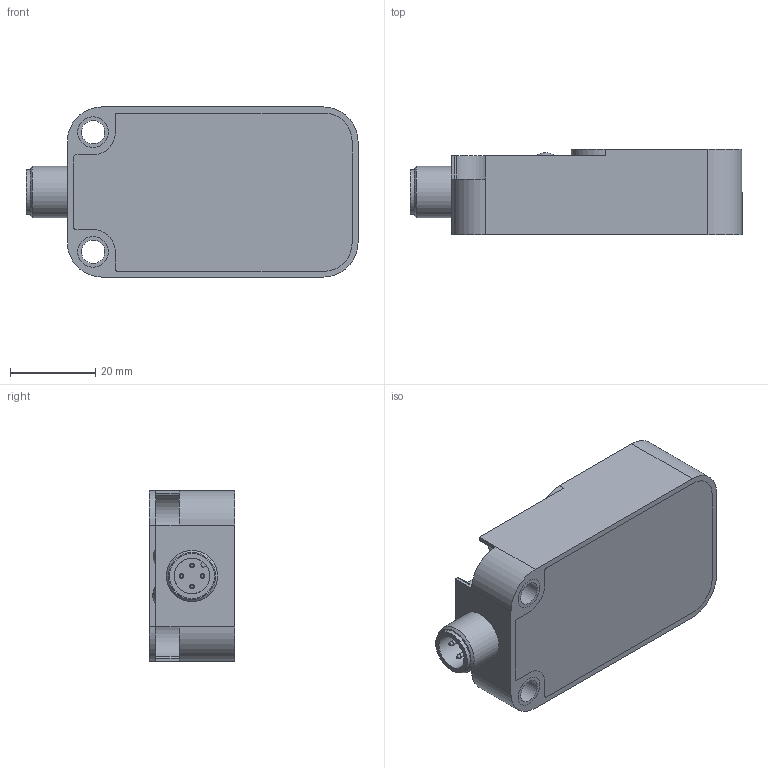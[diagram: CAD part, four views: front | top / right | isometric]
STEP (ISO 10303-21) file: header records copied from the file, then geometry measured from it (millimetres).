
FILE_DESCRIPTION((''),'2;1');
FILE_NAME('C:\TurckZip\Q20-X2-H1.stp','2008-05-15T09:33:57',('IKOROL'),(''),'Autodesk Inventor 2008','Autodesk Inventor 2008','');
FILE_SCHEMA(('CONFIG_CONTROL_DESIGN'));
Length unit declared in the file: millimetre
Products named in the file (1): Part1
Bounding box: 77.7 x 20 x 39.8 mm (x, y, z)
Volume: 50453.3 mm3; surface area: 10848.9 mm2
Topology: 1 solids, 3 shells, 72 faces, 174 edges, 122 vertices
Faces by surface type: plane 33, cylinder 28, cone 7, sphere 2, torus 1, bspline 1
Full cylindrical faces by diameter (mm): 1 x4, 5.5 x2, 8.3 x1, 9 x1, 9.4 x1, 9.45 x2, 9.9 x1, 10 x1, 10.5 x1, 12 x1
Entity records: 2169 total; most frequent: CARTESIAN_POINT 373, DIRECTION 368, ORIENTED_EDGE 284, AXIS2_PLACEMENT_3D 154, EDGE_CURVE 142, EDGE_LOOP 118, VERTEX_POINT 114, CIRCLE 82
